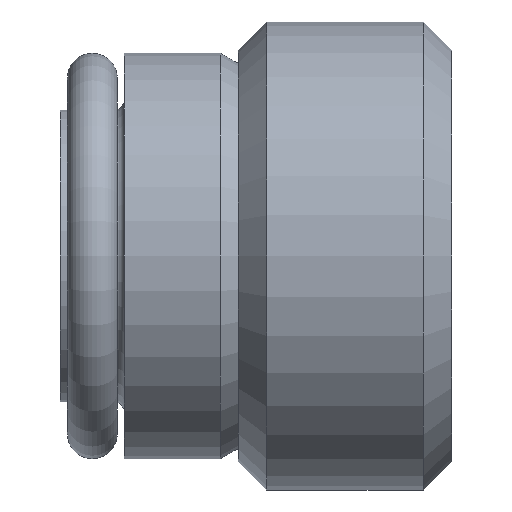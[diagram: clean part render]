
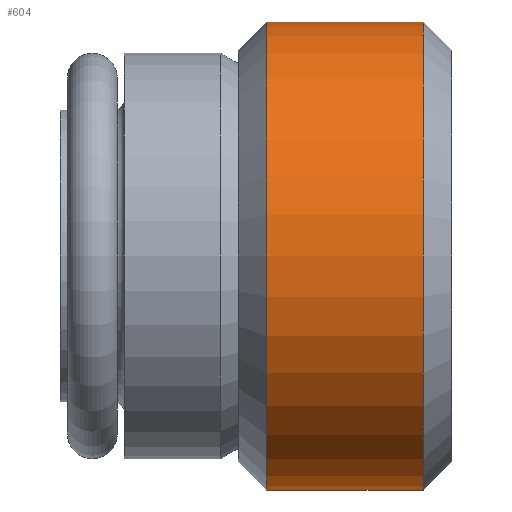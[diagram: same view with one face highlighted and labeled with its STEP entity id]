
A CAD part, front view. The second image highlights one B-rep face of the part: STEP entity #604.
In plain terms, the highlighted cylindrical face has radius 6.579 mm (diameter 13.157 mm), a partial arc.
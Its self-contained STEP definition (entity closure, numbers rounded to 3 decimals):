
#97=DIRECTION('',(-1.,0.,0.));
#98=VECTOR('',#97,4.4);
#99=CARTESIAN_POINT('',(-0.8,0.,-6.579));
#100=LINE('',#99,#98);
#101=DIRECTION('',(-1.,0.,0.));
#102=VECTOR('',#101,4.4);
#103=CARTESIAN_POINT('',(-0.8,0.,6.579));
#104=LINE('',#103,#102);
#105=CARTESIAN_POINT('',(-0.8,0.,0.));
#106=DIRECTION('',(-1.,0.,0.));
#107=DIRECTION('',(0.,0.,-1.));
#108=AXIS2_PLACEMENT_3D('',#105,#106,#107);
#128=CARTESIAN_POINT('',(-5.2,0.,0.));
#129=DIRECTION('',(-1.,0.,0.));
#130=DIRECTION('',(0.,0.,-1.));
#131=AXIS2_PLACEMENT_3D('',#128,#129,#130);
#398=CARTESIAN_POINT('',(-0.8,0.,-6.579));
#400=VERTEX_POINT('',#398);
#401=CARTESIAN_POINT('',(-5.2,0.,-6.579));
#402=VERTEX_POINT('',#401);
#412=CARTESIAN_POINT('',(-0.8,0.,6.579));
#414=VERTEX_POINT('',#412);
#415=CARTESIAN_POINT('',(-5.2,0.,6.579));
#416=VERTEX_POINT('',#415);
#590=CARTESIAN_POINT('',(-11.55,0.,0.));
#591=DIRECTION('',(1.,0.,0.));
#592=DIRECTION('',(0.,0.,1.));
#593=AXIS2_PLACEMENT_3D('',#590,#591,#592);
#594=CYLINDRICAL_SURFACE('',#593,6.579);
#596=ORIENTED_EDGE('',*,*,#595,.T.);
#598=ORIENTED_EDGE('',*,*,#597,.T.);
#600=ORIENTED_EDGE('',*,*,#599,.F.);
#601=ORIENTED_EDGE('',*,*,#583,.F.);
#602=EDGE_LOOP('',(#596,#598,#600,#601));
#603=FACE_OUTER_BOUND('',#602,.F.);
#109=CIRCLE('',#108,6.579);
#132=CIRCLE('',#131,6.579);
#583=EDGE_CURVE('',#400,#414,#109,.T.);
#595=EDGE_CURVE('',#400,#402,#100,.T.);
#597=EDGE_CURVE('',#402,#416,#132,.T.);
#599=EDGE_CURVE('',#414,#416,#104,.T.);
#604=ADVANCED_FACE('',(#603),#594,.T.);
